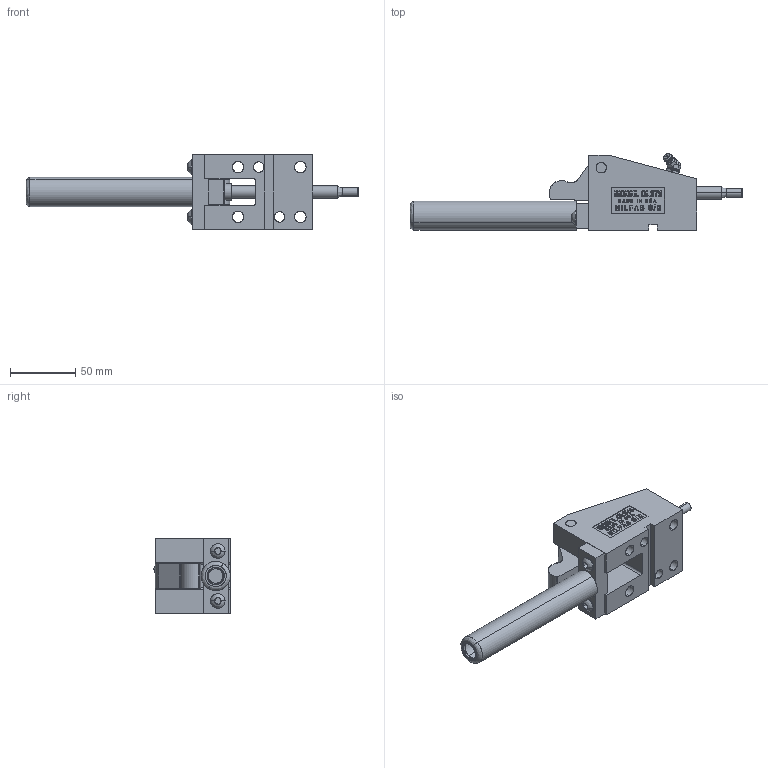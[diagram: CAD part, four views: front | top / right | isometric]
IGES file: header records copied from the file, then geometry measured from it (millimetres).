
Start section: SolidWorks IGES file using analytic representation for surfaces
Global section: file name: Y:\JIM'S INCH CAM UNITS\OL37545\CLOSED\OL37545-C.IGS; native system: SolidWorks 2006 by SolidWorks Corporation; preprocessor: SolidWorks 2006 by SolidWorks Corporation; author: Jim; date: 090205.105132; units: inch
Bounding box: 253.59 x 58.4 x 57.15 mm (x, y, z)
Surface area: 69942 mm2 (no closed solid volume)
Topology: 0 solids, 0 shells, 585 faces, 7547 edges, 7545 vertices
Faces by surface type: bspline 459, revolution 126
